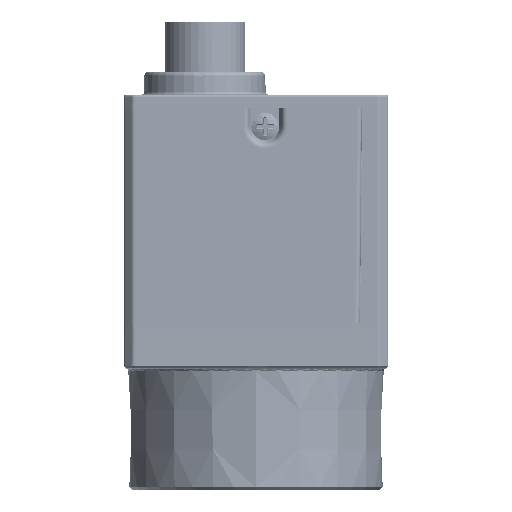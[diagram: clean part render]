
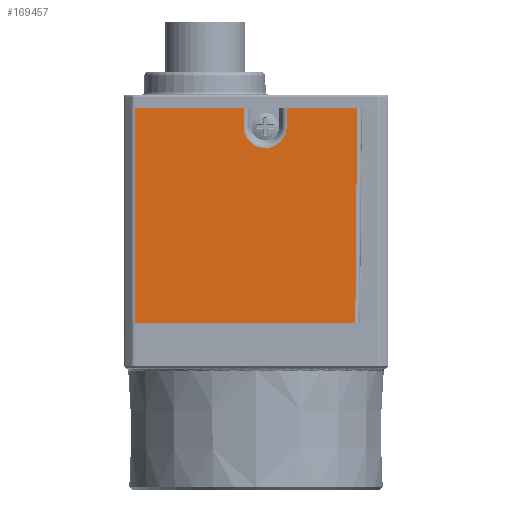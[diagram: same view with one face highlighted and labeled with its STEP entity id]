
A CAD part, left-side view. The second image highlights one B-rep face of the part: STEP entity #169457.
In plain terms, the highlighted planar face has unit normal (-1, -0.007, 0).
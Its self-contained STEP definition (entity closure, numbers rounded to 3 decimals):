
#167295=DIRECTION('',(0.,0.,-1.));
#167296=VECTOR('',#167295,23.5);
#167297=CARTESIAN_POINT('',(-14.499,13.291,23.5));
#167298=LINE('',#167297,#167296);
#167303=DIRECTION('',(0.,0.009,-1.));
#167304=VECTOR('',#167303,23.501);
#167305=CARTESIAN_POINT('',(-14.328,-11.084,23.5));
#167306=LINE('',#167305,#167304);
#167307=DIRECTION('',(-0.007,1.,0.));
#167308=VECTOR('',#167307,24.171);
#167309=CARTESIAN_POINT('',(-14.33,-10.879,
0.));
#167310=LINE('',#167309,#167308);
#167311=CARTESIAN_POINT('',(-14.399,-1.008,21.5));
#167312=DIRECTION('',(-1.,-0.007,0.));
#167313=DIRECTION('',(-0.007,1.,0.));
#167314=AXIS2_PLACEMENT_3D('',#167311,#167312,#167313);
#167316=CARTESIAN_POINT('',(-14.399,-1.008,21.5));
#167317=DIRECTION('',(-1.,-0.007,0.));
#167318=DIRECTION('',(-0.007,0.992,-0.122));
#167319=AXIS2_PLACEMENT_3D('',#167316,#167317,#167318);
#167493=DIRECTION('',(-0.007,1.,0.));
#167494=VECTOR('',#167493,7.718);
#167495=CARTESIAN_POINT('',(-14.328,-11.084,23.5));
#167496=LINE('',#167495,#167494);
#167515=DIRECTION('',(0.,0.,-1.));
#167516=VECTOR('',#167515,2.);
#167517=CARTESIAN_POINT('',(-14.382,-3.366,23.5));
#167518=LINE('',#167517,#167516);
#167543=DIRECTION('',(0.,0.,1.));
#167544=VECTOR('',#167543,2.);
#167545=CARTESIAN_POINT('',(-14.415,1.35,
21.5));
#167546=LINE('',#167545,#167544);
#167569=DIRECTION('',(-0.007,1.,0.));
#167570=VECTOR('',#167569,11.941);
#167571=CARTESIAN_POINT('',(-14.415,1.35,23.5));
#167572=LINE('',#167571,#167570);
#168871=CARTESIAN_POINT('',(-14.499,13.291,0.));
#168872=VERTEX_POINT('',#168871);
#168873=CARTESIAN_POINT('',(-14.499,13.291,23.5));
#168874=VERTEX_POINT('',#168873);
#168875=CARTESIAN_POINT('',(-14.328,-11.084,23.5));
#168876=CARTESIAN_POINT('',(-14.33,-10.879,
0.));
#168877=VERTEX_POINT('',#168875);
#168878=VERTEX_POINT('',#168876);
#168879=CARTESIAN_POINT('',(-14.415,1.35,23.5));
#168880=VERTEX_POINT('',#168879);
#168881=CARTESIAN_POINT('',(-14.415,1.35,
21.5));
#168882=VERTEX_POINT('',#168881);
#168883=CARTESIAN_POINT('',(-14.415,1.332,
21.211));
#168884=VERTEX_POINT('',#168883);
#168885=CARTESIAN_POINT('',(-14.382,-3.366,
21.5));
#168886=VERTEX_POINT('',#168885);
#168887=CARTESIAN_POINT('',(-14.382,-3.366,23.5));
#168888=VERTEX_POINT('',#168887);
#169433=CARTESIAN_POINT('',(-14.5,13.5,0.));
#169434=DIRECTION('',(-1.,-0.007,0.));
#169435=DIRECTION('',(0.007,-1.,0.));
#169436=AXIS2_PLACEMENT_3D('',#169433,#169434,#169435);
#169437=PLANE('',#169436);
#169439=ORIENTED_EDGE('',*,*,#169438,.T.);
#169441=ORIENTED_EDGE('',*,*,#169440,.T.);
#169442=ORIENTED_EDGE('',*,*,#169424,.F.);
#169444=ORIENTED_EDGE('',*,*,#169443,.F.);
#169446=ORIENTED_EDGE('',*,*,#169445,.F.);
#169448=ORIENTED_EDGE('',*,*,#169447,.T.);
#169450=ORIENTED_EDGE('',*,*,#169449,.T.);
#169452=ORIENTED_EDGE('',*,*,#169451,.F.);
#169454=ORIENTED_EDGE('',*,*,#169453,.F.);
#169455=EDGE_LOOP('',(#169439,#169441,#169442,#169444,#169446,#169448,#169450,
#169452,#169454));
#169456=FACE_OUTER_BOUND('',#169455,.F.);
#169457=ADVANCED_FACE('',(#169456),#169437,.T.);
#167315=CIRCLE('',#167314,2.358);
#167320=CIRCLE('',#167319,2.358);
#169424=EDGE_CURVE('',#168874,#168872,#167298,.T.);
#169438=EDGE_CURVE('',#168877,#168878,#167306,.T.);
#169440=EDGE_CURVE('',#168878,#168872,#167310,.T.);
#169443=EDGE_CURVE('',#168880,#168874,#167572,.T.);
#169445=EDGE_CURVE('',#168882,#168880,#167546,.T.);
#169447=EDGE_CURVE('',#168882,#168884,#167315,.T.);
#169449=EDGE_CURVE('',#168884,#168886,#167320,.T.);
#169451=EDGE_CURVE('',#168888,#168886,#167518,.T.);
#169453=EDGE_CURVE('',#168877,#168888,#167496,.T.);
